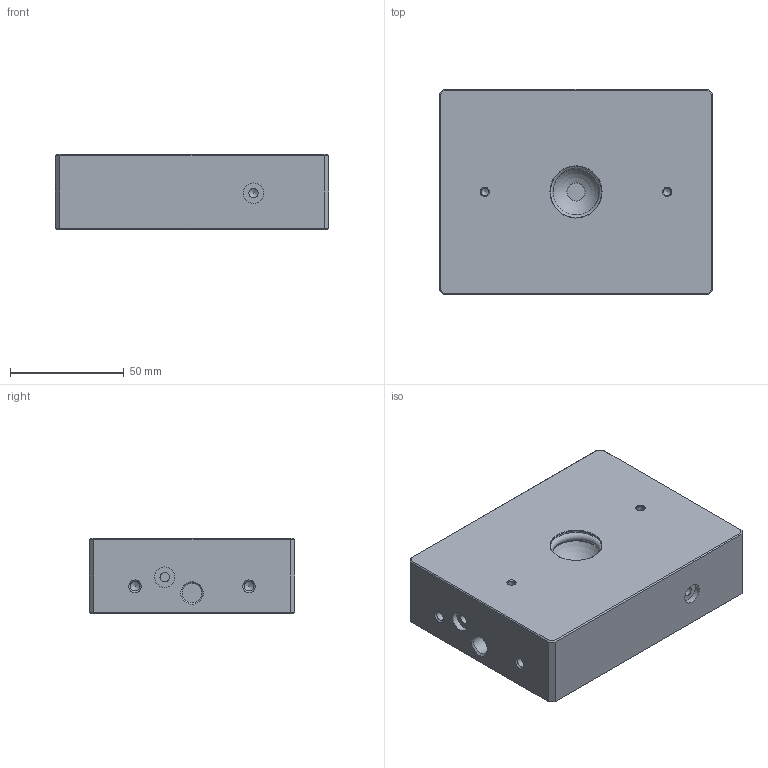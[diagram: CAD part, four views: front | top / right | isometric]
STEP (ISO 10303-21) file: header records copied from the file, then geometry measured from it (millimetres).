
FILE_DESCRIPTION(/* description */ (''),/* implementation_level */ '2;1');
FILE_NAME(/* name */ 'C:\VAULT\ARCHIVIO\MAGER\PATTINI\HRA\HRA-2010x\File Step Orazio\OK_WF10100H33200_AIRPAD HRA-2010PAN 090x120x33.0.stp',/* time_stamp */ '2021-10-19T14:51:12+02:00',/* author */ ('Orazio.Farruggio'),/* organization */ (''),/* preprocessor_version */ 'ST-DEVELOPER v18.1',/* originating_system */ 'Autodesk Inventor 2022',/* authorisation */ '');
FILE_SCHEMA (('AUTOMOTIVE_DESIGN { 1 0 10303 214 3 1 1 }'));
Length unit declared in the file: millimetre
Products named in the file (1): WF10100H33200_AIRPAD HRA-2010P 090x120x33.0___Sostituto_1
Bounding box: 120 x 90 x 33 mm (x, y, z)
Volume: 346078.3 mm3; surface area: 40274.1 mm2
Topology: 2 solids, 2 shells, 87 faces, 177 edges, 105 vertices
Faces by surface type: plane 39, cone 23, cylinder 23, sphere 1, torus 1
Full cylindrical faces by diameter (mm): 3.242 x2, 4.134 x8, 8 x1, 8.566 x6, 9 x4, 22.5 x1, 27.4 x1
Entity records: 2368 total; most frequent: DIRECTION 408, CARTESIAN_POINT 360, ORIENTED_EDGE 334, EDGE_CURVE 167, AXIS2_PLACEMENT_3D 153, EDGE_LOOP 110, VERTEX_POINT 105, LINE 102
